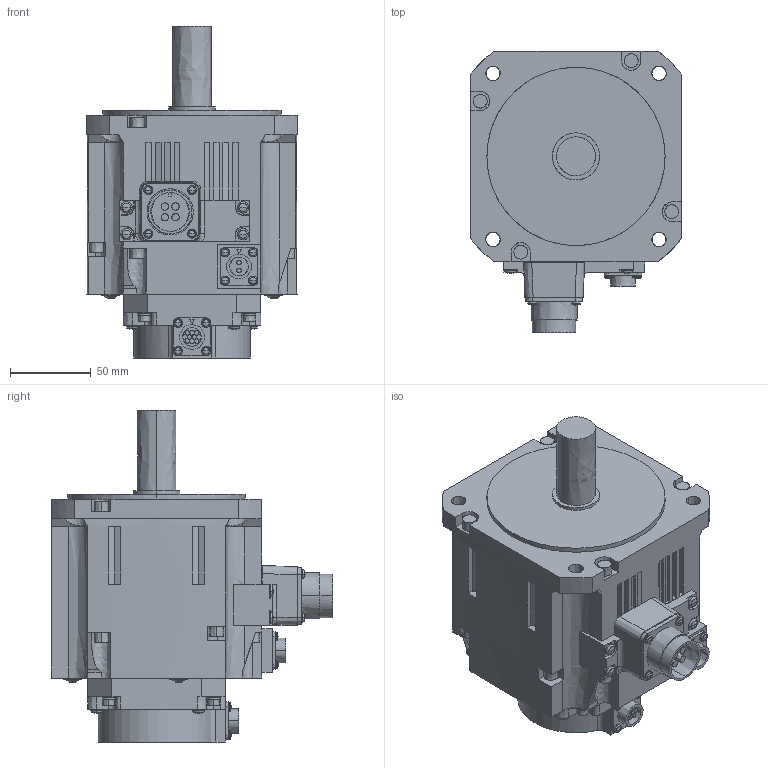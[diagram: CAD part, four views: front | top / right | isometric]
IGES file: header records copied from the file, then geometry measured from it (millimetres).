
Start section:  PTC IGES file: hk-st52wb_.igs
Global section: file name: hk-st52wb_.igs; native system: Creo Parametric by PTC Inc.; preprocessor: 2016380; author: XE90682; organization: Unknown; date: 20190117.165117; units: millimetre
Bounding box: 130 x 173.8 x 205 mm (x, y, z)
Volume: 1958075.5 mm3; surface area: 124593.6 mm2
Topology: 1 solids, 1 shells, 624 faces, 1534 edges, 968 vertices
Faces by surface type: bspline 624
